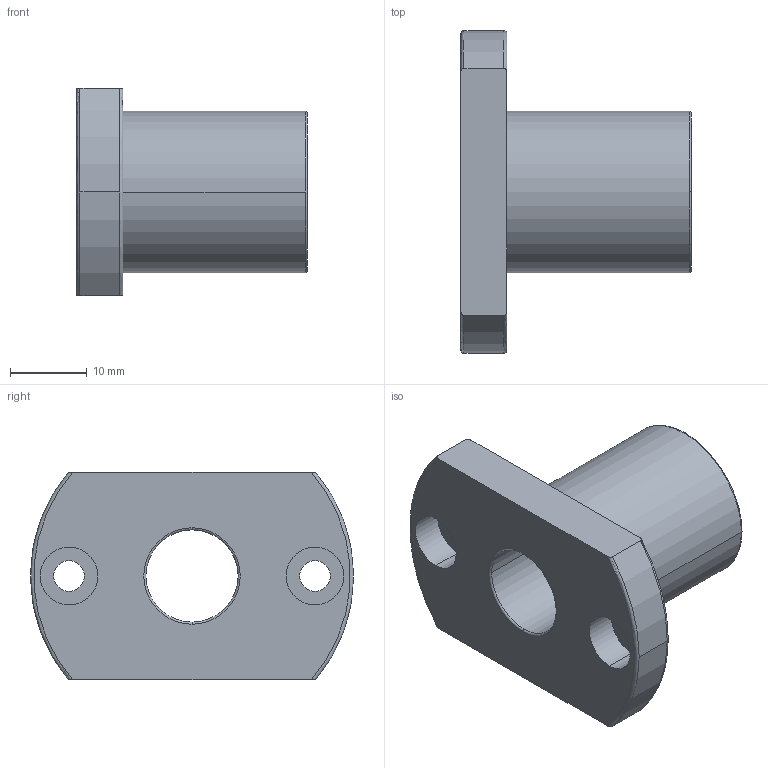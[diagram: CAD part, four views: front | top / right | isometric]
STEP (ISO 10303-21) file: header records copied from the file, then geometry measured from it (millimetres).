
FILE_DESCRIPTION(('FreeCAD Model'),'2;1');
FILE_NAME('Open CASCADE Shape Model','2021-05-03T13:44:43',('Author'),( ''),'Open CASCADE STEP processor 7.5','FreeCAD','Unknown');
FILE_SCHEMA(('AUTOMOTIVE_DESIGN { 1 0 10303 214 1 1 1 1 }'));
Length unit declared in the file: millimetre
Products named in the file (1): linear_lmh12uu
Bounding box: 30 x 42 x 27 mm (x, y, z)
Volume: 10803.9 mm3; surface area: 5479.2 mm2
Topology: 1 solids, 1 shells, 33 faces, 87 edges, 59 vertices
Faces by surface type: cylinder 16, torus 10, plane 7
Entity records: 3206 total; most frequent: CARTESIAN_POINT 1432, DIRECTION 345, ORIENTED_EDGE 174, PCURVE 174, DEFINITIONAL_REPRESENTATION 174, LINE 149, VECTOR 149, AXIS2_PLACEMENT_3D 91
